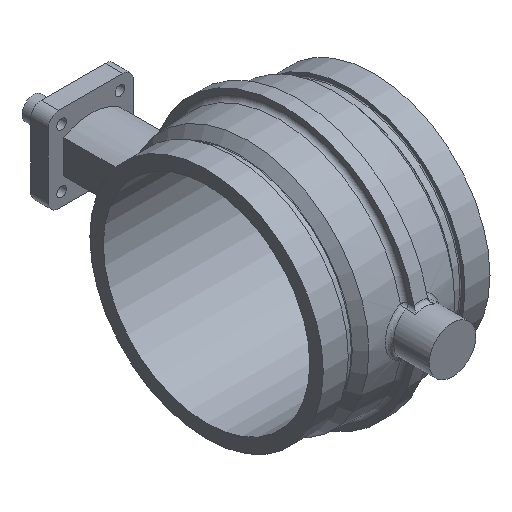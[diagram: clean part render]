
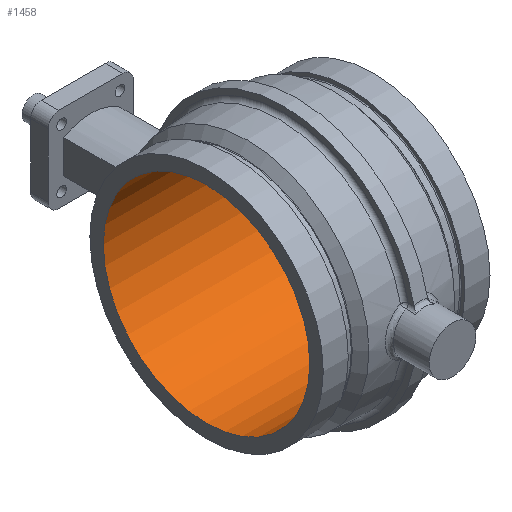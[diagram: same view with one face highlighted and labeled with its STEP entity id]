
A CAD part, isometric view. The second image highlights one B-rep face of the part: STEP entity #1458.
In plain terms, the highlighted cylindrical face has radius 157.29 mm (diameter 314.579 mm), a full revolution.
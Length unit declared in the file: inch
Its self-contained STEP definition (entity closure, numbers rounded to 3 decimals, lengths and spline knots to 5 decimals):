
#175=LINE('',#3121,#228);
#228=VECTOR('',#2035,6.1925);
#255=CYLINDRICAL_SURFACE('',#1645,6.1925);
#331=FACE_OUTER_BOUND('',#421,.T.);
#421=EDGE_LOOP('',(#1285,#1286,#1287,#1288,#1289,#1290));
#522=CIRCLE('',#1643,6.1925);
#523=CIRCLE('',#1644,6.1925);
#524=CIRCLE('',#1646,6.1925);
#525=CIRCLE('',#1647,6.1925);
#661=VERTEX_POINT('',#3115);
#662=VERTEX_POINT('',#3116);
#663=VERTEX_POINT('',#3120);
#664=VERTEX_POINT('',#3122);
#870=EDGE_CURVE('',#661,#662,#522,.T.);
#871=EDGE_CURVE('',#662,#661,#523,.T.);
#872=EDGE_CURVE('',#662,#663,#175,.T.);
#873=EDGE_CURVE('',#664,#663,#524,.T.);
#874=EDGE_CURVE('',#663,#664,#525,.T.);
#1285=ORIENTED_EDGE('',*,*,#870,.T.);
#1286=ORIENTED_EDGE('',*,*,#872,.T.);
#1287=ORIENTED_EDGE('',*,*,#873,.F.);
#1288=ORIENTED_EDGE('',*,*,#874,.F.);
#1289=ORIENTED_EDGE('',*,*,#872,.F.);
#1290=ORIENTED_EDGE('',*,*,#871,.T.);
#1458=ADVANCED_FACE('',(#331),#255,.F.);
#1643=AXIS2_PLACEMENT_3D('',#3117,#2029,#2030);
#1644=AXIS2_PLACEMENT_3D('',#3118,#2031,#2032);
#1645=AXIS2_PLACEMENT_3D('',#3119,#2033,#2034);
#1646=AXIS2_PLACEMENT_3D('',#3123,#2036,#2037);
#1647=AXIS2_PLACEMENT_3D('',#3124,#2038,#2039);
#2029=DIRECTION('center_axis',(1.,0.,0.));
#2030=DIRECTION('ref_axis',(0.,1.,0.));
#2031=DIRECTION('center_axis',(1.,0.,0.));
#2032=DIRECTION('ref_axis',(0.,1.,0.));
#2033=DIRECTION('center_axis',(1.,0.,0.));
#2034=DIRECTION('ref_axis',(0.,1.,0.));
#2035=DIRECTION('',(-1.,0.,0.));
#2036=DIRECTION('center_axis',(1.,0.,0.));
#2037=DIRECTION('ref_axis',(0.,1.,0.));
#2038=DIRECTION('center_axis',(1.,0.,0.));
#2039=DIRECTION('ref_axis',(0.,1.,0.));
#3115=CARTESIAN_POINT('',(5.,6.1925,0.));
#3116=CARTESIAN_POINT('',(5.,-6.1925,0.));
#3117=CARTESIAN_POINT('Origin',(5.,0.,0.));
#3118=CARTESIAN_POINT('Origin',(5.,0.,0.));
#3119=CARTESIAN_POINT('Origin',(0.,0.,0.));
#3120=CARTESIAN_POINT('',(-5.,-6.1925,0.));
#3121=CARTESIAN_POINT('',(0.,-6.1925,0.));
#3122=CARTESIAN_POINT('',(-5.,6.1925,0.));
#3123=CARTESIAN_POINT('Origin',(-5.,0.,0.));
#3124=CARTESIAN_POINT('Origin',(-5.,0.,0.));
